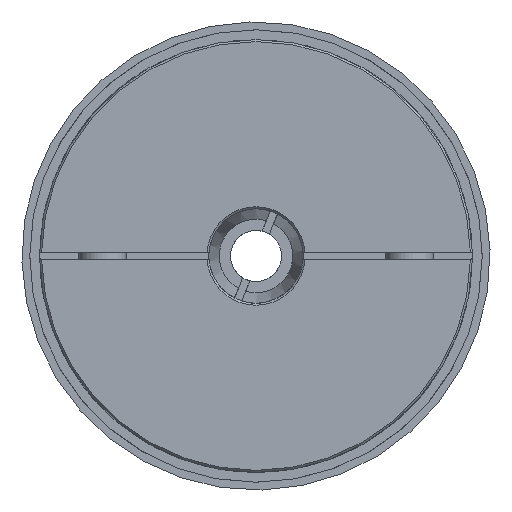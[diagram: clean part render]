
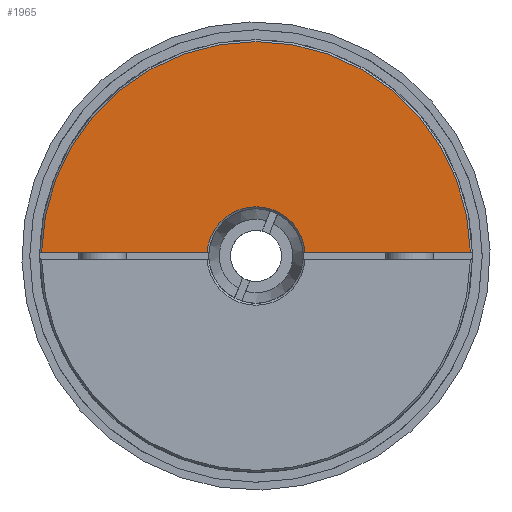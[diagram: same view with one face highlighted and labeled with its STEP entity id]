
A CAD part, left-side view. The second image highlights one B-rep face of the part: STEP entity #1965.
In plain terms, the highlighted planar face has unit normal (-1, 0, 0) as drawn and (1, 0, 0) by its records, which use the part's own axes.
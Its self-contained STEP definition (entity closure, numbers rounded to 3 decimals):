
#1965 = ADVANCED_FACE( '', ( #2746 ), #2747, .T. );
#2746 = FACE_OUTER_BOUND( '', #4032, .T. );
#2747 = PLANE( '', #4033 );
#4032 = EDGE_LOOP( '', ( #4827, #4828, #4829, #4830 ) );
#4033 = AXIS2_PLACEMENT_3D( '', #4831, #4832, #4833 );
#4827 = ORIENTED_EDGE( '', *, *, #5659, .F. );
#4828 = ORIENTED_EDGE( '', *, *, #5660, .T. );
#4829 = ORIENTED_EDGE( '', *, *, #5661, .F. );
#4830 = ORIENTED_EDGE( '', *, *, #5662, .T. );
#4831 = CARTESIAN_POINT( '', ( 43., 0., 55. ) );
#4832 = DIRECTION( '', ( 1., 0., 0. ) );
#4833 = DIRECTION( '', ( 0., 0., -1. ) );
#5659 = EDGE_CURVE( '', #7357, #7358, #7359, .T. );
#5660 = EDGE_CURVE( '', #7357, #7360, #7361, .F. );
#5661 = EDGE_CURVE( '', #7362, #7360, #7363, .T. );
#5662 = EDGE_CURVE( '', #7362, #7358, #7364, .T. );
#7357 = VERTEX_POINT( '', #8314 );
#7358 = VERTEX_POINT( '', #8315 );
#7359 = LINE( '', #8316, #8317 );
#7360 = VERTEX_POINT( '', #8318 );
#7361 = CIRCLE( '', #8319, 12.5 );
#7362 = VERTEX_POINT( '', #8320 );
#7363 = LINE( '', #8321, #8322 );
#7364 = CIRCLE( '', #8323, 54.5 );
#8314 = CARTESIAN_POINT( '', ( 43., -12.46, 1. ) );
#8315 = CARTESIAN_POINT( '', ( 43., -54.491, 1. ) );
#8316 = CARTESIAN_POINT( '', ( 43., 0., 1. ) );
#8317 = VECTOR( '', #8627, 1000. );
#8318 = CARTESIAN_POINT( '', ( 43., 12.46, 1. ) );
#8319 = AXIS2_PLACEMENT_3D( '', #8628, #8629, #8630 );
#8320 = CARTESIAN_POINT( '', ( 43., 54.491, 1. ) );
#8321 = CARTESIAN_POINT( '', ( 43., 0., 1. ) );
#8322 = VECTOR( '', #8631, 1000. );
#8323 = AXIS2_PLACEMENT_3D( '', #8632, #8633, #8634 );
#8627 = DIRECTION( '', ( 0., -1., 0. ) );
#8628 = CARTESIAN_POINT( '', ( 43., 0., 0. ) );
#8629 = DIRECTION( '', ( 1., 0., 0. ) );
#8630 = DIRECTION( '', ( 0., 0., -1. ) );
#8631 = DIRECTION( '', ( 0., -1., 0. ) );
#8632 = CARTESIAN_POINT( '', ( 43., 0., 0. ) );
#8633 = DIRECTION( '', ( 1., 0., 0. ) );
#8634 = DIRECTION( '', ( 0., 0., -1. ) );
